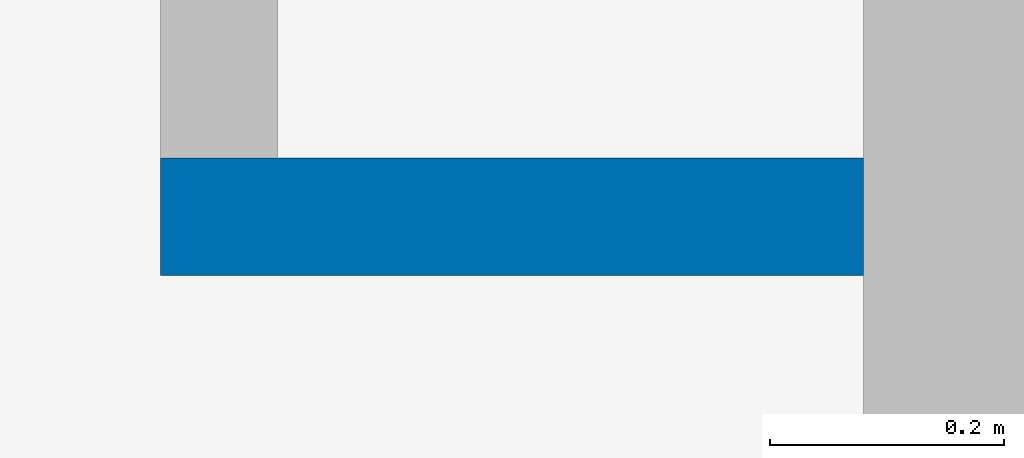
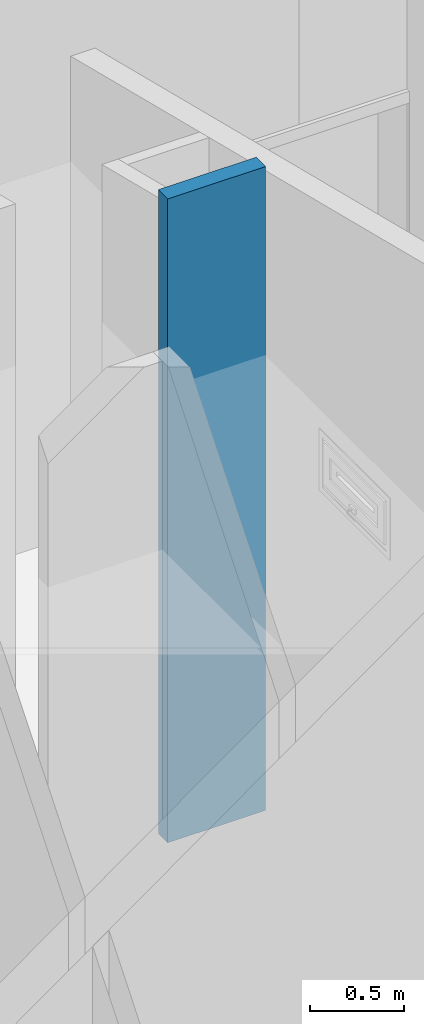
# One storey, part 122 of 153: 1 wall.
"""IFC4 building model written with IfcOpenShell, lengths in metres."""

from ifc_helpers import new_model, entity, si_unit, converted_unit, derived_unit, direction, frame, origin, place, context, subcontext, project, spatial, indexed_curve, outline, extrude, material, type_object, element, save


model = new_model("IFC4")

# Units and contexts
model_context = context("Model", 3, precision=1e-05, world=origin(), true_north=direction((6.123031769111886e-17, 1.0)))
body_context = subcontext(model_context, "Body", "Model", "MODEL_VIEW")
ifc_project = project(units=[si_unit("LENGTHUNIT", "METRE"), si_unit("AREAUNIT", "SQUARE_METRE"), si_unit("VOLUMEUNIT", "CUBIC_METRE"), converted_unit("PLANEANGLEUNIT", "DEGREE", entity("IfcRatioMeasure", 0.017453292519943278), si_unit("PLANEANGLEUNIT", "RADIAN"), dimensions=[0, 0, 0, 0, 0, 0, 0]), si_unit("MASSUNIT", "GRAM", prefix="KILO"), derived_unit("MASSDENSITYUNIT", [(si_unit("MASSUNIT", "GRAM", prefix="KILO"), 1), (si_unit("LENGTHUNIT", "METRE"), -3)]), derived_unit("MOMENTOFINERTIAUNIT", [(si_unit("LENGTHUNIT", "METRE"), 4)]), si_unit("TIMEUNIT", "SECOND"), si_unit("FREQUENCYUNIT", "HERTZ"), si_unit("THERMODYNAMICTEMPERATUREUNIT", "DEGREE_CELSIUS"), derived_unit("THERMALTRANSMITTANCEUNIT", [(si_unit("MASSUNIT", "GRAM", prefix="KILO"), 1), (si_unit("THERMODYNAMICTEMPERATUREUNIT", "KELVIN"), -1), (si_unit("TIMEUNIT", "SECOND"), -3)]), derived_unit("VOLUMETRICFLOWRATEUNIT", [(si_unit("LENGTHUNIT", "METRE"), 3), (si_unit("TIMEUNIT", "SECOND"), -1)]), derived_unit("MASSFLOWRATEUNIT", [(si_unit("MASSUNIT", "GRAM", prefix="KILO"), 1), (si_unit("TIMEUNIT", "SECOND"), -1)]), derived_unit("ROTATIONALFREQUENCYUNIT", [(si_unit("TIMEUNIT", "SECOND"), -1)]), si_unit("ELECTRICCURRENTUNIT", "AMPERE"), si_unit("ELECTRICVOLTAGEUNIT", "VOLT"), si_unit("POWERUNIT", "WATT"), si_unit("FORCEUNIT", "NEWTON", prefix="KILO"), si_unit("ILLUMINANCEUNIT", "LUX"), si_unit("LUMINOUSFLUXUNIT", "LUMEN"), si_unit("LUMINOUSINTENSITYUNIT", "CANDELA"), derived_unit("USERDEFINED", [(si_unit("MASSUNIT", "GRAM", prefix="KILO"), -1), (si_unit("LENGTHUNIT", "METRE"), -2), (si_unit("TIMEUNIT", "SECOND"), 3), (si_unit("LUMINOUSFLUXUNIT", "LUMEN"), 1)]), derived_unit("SOUNDPOWERUNIT", [(si_unit("MASSUNIT", "GRAM", prefix="KILO"), 1), (si_unit("LENGTHUNIT", "METRE"), 2), (si_unit("TIMEUNIT", "SECOND"), -3)]), derived_unit("SOUNDPRESSUREUNIT", [(si_unit("MASSUNIT", "GRAM", prefix="KILO"), 1), (si_unit("LENGTHUNIT", "METRE"), -1), (si_unit("TIMEUNIT", "SECOND"), -2)]), derived_unit("LINEARVELOCITYUNIT", [(si_unit("LENGTHUNIT", "METRE"), 1), (si_unit("TIMEUNIT", "SECOND"), -1)]), si_unit("PRESSUREUNIT", "PASCAL"), derived_unit("USERDEFINED", [(si_unit("LENGTHUNIT", "METRE"), -2), (si_unit("MASSUNIT", "GRAM", prefix="KILO"), 1), (si_unit("TIMEUNIT", "SECOND"), -2)]), derived_unit("LINEARFORCEUNIT", [(si_unit("MASSUNIT", "GRAM", prefix="KILO"), 1), (si_unit("LENGTHUNIT", "METRE"), 1), (si_unit("TIMEUNIT", "SECOND"), -2), (si_unit("LENGTHUNIT", "METRE"), -1)]), derived_unit("PLANARFORCEUNIT", [(si_unit("MASSUNIT", "GRAM", prefix="KILO"), 1), (si_unit("LENGTHUNIT", "METRE"), 1), (si_unit("TIMEUNIT", "SECOND"), -2), (si_unit("LENGTHUNIT", "METRE"), -2)])], contexts=[model_context])

# Site, building, storey
site_placement = place(None, origin())
site = spatial("IfcSite", under=ifc_project, at=site_placement, Name="Superficie", CompositionType="ELEMENT")
building_placement = place(site_placement, origin())
building = spatial("IfcBuilding", under=site, at=building_placement, CompositionType="ELEMENT")
storey_placement = place(building_placement, frame((0.0, 0.0, 3.5999999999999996)))
storey = spatial("IfcBuildingStorey", under=building, at=storey_placement, Name="Nivel 1", CompositionType="ELEMENT", Elevation=3.5999999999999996)

# Wall
ifc_material = material(Name="Muro por defecto", Category="Varios")
wall_type = type_object("IfcWallType", Name="Muro básico:Por defecto - 10 cm", PredefinedType="STANDARD")
wall_placement = place(storey_placement, frame((13.151001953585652, 8.350829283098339, 0.0), z_axis=(0.0, 0.0, 1.0), x_axis=(-1.0, 0.0, 0.0)))
element("IfcWall", 1, at=wall_placement, inside=storey, type_object=wall_type, material=ifc_material, Name="Muro básico:Por defecto - 10 cm", ObjectType="Muro básico:Por defecto - 10 cm", PredefinedType="NOTDEFINED", context=body_context, shape_type="SweptSolid", body=[
    extrude(outline(indexed_curve([(0.600000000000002, 0.04999999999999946), (-1.8047785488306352e-16, 0.04999999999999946), (1.8047785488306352e-16, -0.04999999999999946), (0.6000000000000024, -0.04999999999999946), (0.600000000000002, 0.04999999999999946)], self_intersect=False)), origin(), (0.0, 0.0, 1.0), 4.169999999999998),
])

save(model, "model.ifc")
